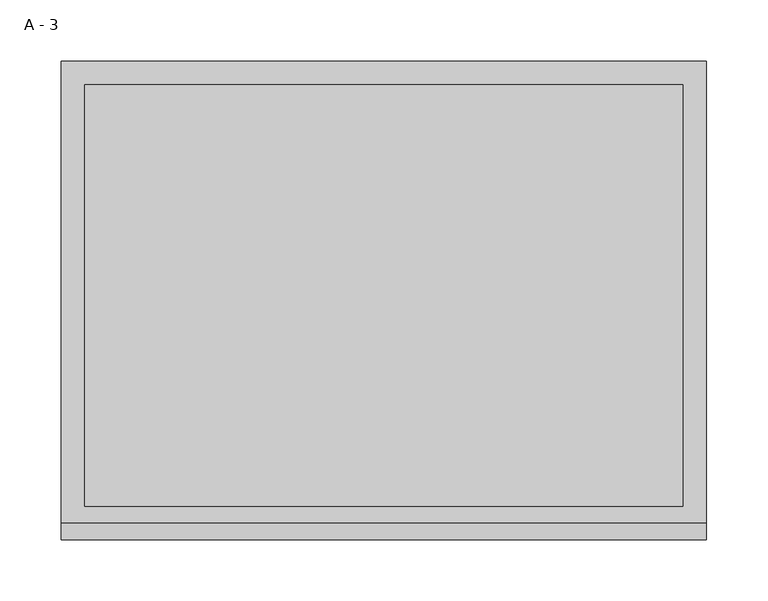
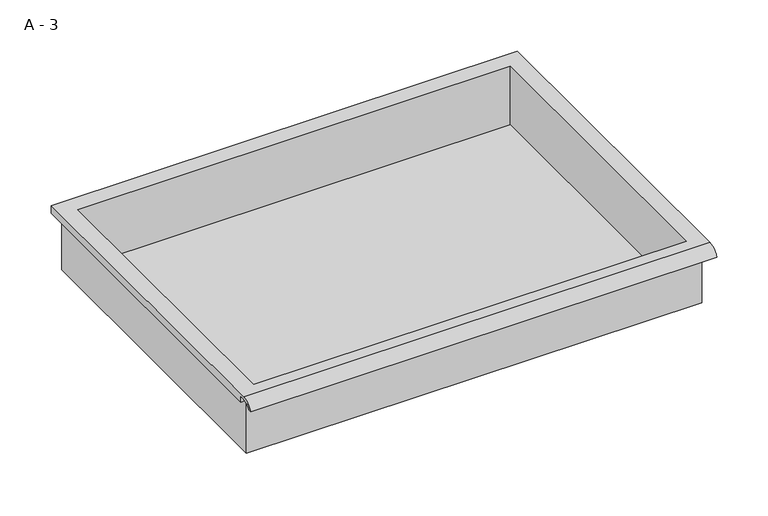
"""IFC4 building model written with IfcOpenShell, lengths in millimetres: furniture geometry, HermanMiller_CoStruc_CO207_Drawer : A - 3."""

from ifc_helpers import new_model, si_unit, frame, origin, place, context, project, spatial, polyline, circle_curve, source, transform, mapped, element, save
from ifc_brep_helpers import plane_surface, cylinder_surface, revolved_surface, advanced_brep


def a_3_05a797c7(model_context):
    return source(origin(), model_context, "Body", "AdvancedBrep", [
        advanced_brep(
        [(-257.1076517, -176.2125, 622.2111), (257.2423483, -176.2125, 622.2111), (257.2423483, -176.2125, 685.7111), (263.5923483, -176.2125, 685.7111), (263.5923483, -176.2125, 692.0182341), (-263.4576517, -176.2125, 692.0182341), (-263.4576517, -176.2125, 685.7111), (-257.1076517, -176.2125, 685.7111), (257.2423483, 185.7375, 622.2111), (-257.1076517, 185.7375, 622.2111), (-257.1076517, 185.7375, 685.7111), (257.2423483, 185.7375, 685.7111), (263.5923483, -181.6070544, 695.2361), (263.5923483, 195.2625, 695.2361), (-263.4576517, 195.2625, 695.2361), (-263.4576517, -181.6070544, 695.2361), (244.5423483, -168.275, 695.2361), (-244.4076517, -168.275, 695.2361), (-244.4076517, 176.2125, 695.2361), (244.5423483, 176.2125, 695.2361), (263.5923483, -195.2625, 685.7111), (263.5923483, -191.8280601, 685.7111), (263.5923483, -180.4714815, 692.0182341), (263.5923483, 195.2625, 685.7111), (-263.4576517, 195.2625, 685.7111), (-263.4576517, -180.4714815, 692.0182341), (-263.4576517, -191.8280601, 685.7111), (-263.4576517, -195.2625, 685.7111), (-244.4076517, -168.275, 625.2372719), (244.5423483, -168.275, 625.2372719), (244.5423483, 176.2125, 625.2372719), (-244.4076517, 176.2125, 625.2372719)],
        [
            (0, 1),
            (1, 2),
            (2, 3),
            (3, 4),
            (4, 5),
            (5, 6),
            (6, 7),
            (7, 0),
            (8, 9),
            (9, 10),
            (10, 11),
            (11, 8),
            (0, 9),
            (8, 1),
            (11, 2),
            (12, 13),
            (13, 14),
            (14, 15),
            (15, 12),
            (16, 17),
            (17, 18),
            (18, 19),
            (19, 16),
            (7, 10),
            (12, 20, circle_curve(frame((263.5923483, -181.6070544, 680.6850859), z_axis=(1.0, 0.0, 0.0), x_axis=(0.0, 1.0, 0.0)), 14.5510141)),
            (20, 21),
            (21, 22, circle_curve(frame((263.5923483, -181.6070544, 680.6850859), z_axis=(-1.0, 0.0, 0.0), x_axis=(0.0, 1.0, 0.0)), 11.3898979)),
            (22, 4),
            (3, 23),
            (23, 13),
            (14, 24),
            (24, 6),
            (5, 25),
            (25, 26, circle_curve(frame((-263.4576517, -181.6070544, 680.6850859), z_axis=(1.0, 0.0, 0.0), x_axis=(0.0, 1.0, 0.0)), 11.3898979)),
            (26, 27),
            (27, 15, circle_curve(frame((-263.4576517, -181.6070544, 680.6850859), z_axis=(-1.0, 0.0, 0.0), x_axis=(0.0, 1.0, 0.0)), 14.5510141)),
            (27, 20),
            (26, 21),
            (25, 22),
            (24, 23),
            (28, 29),
            (29, 30),
            (30, 31),
            (31, 28),
            (28, 17),
            (16, 29),
            (19, 30),
            (18, 31),
        ],
        [
            plane_surface(frame((257.2423483, -176.2125, 622.2111), z_axis=(0.0, -1.0, 0.0), x_axis=(1.0, 0.0, 0.0))),
            plane_surface(frame((257.2423483, 185.7375, 622.2111), z_axis=(0.0, 1.0, 0.0), x_axis=(-1.0, 0.0, 0.0))),
            plane_surface(frame((-257.1076517, -176.2125, 622.2111), z_axis=(0.0, 0.0, -1.0), x_axis=(0.0, 1.0, 0.0))),
            plane_surface(frame((257.2423483, -176.2125, 622.2111), z_axis=(1.0, 0.0, 0.0), x_axis=(0.0, 1.0, 0.0))),
            plane_surface(frame((257.2423483, -176.2125, 695.2361), z_axis=(0.0, 0.0, 1.0), x_axis=(0.0, 1.0, 0.0))),
            plane_surface(frame((-257.1076517, -176.2125, 695.2361), z_axis=(-1.0, 0.0, 0.0), x_axis=(0.0, 1.0, 0.0))),
            plane_surface(frame((263.5923483, 195.2625, 695.2361), z_axis=(1.0, 0.0, 0.0), x_axis=(0.0, -1.0, 0.0))),
            plane_surface(frame((-263.4576517, 195.2625, 695.2361), z_axis=(-1.0, 0.0, 0.0), x_axis=(0.0, 1.0, 0.0))),
            cylinder_surface(frame((-263.4576517, -181.6070544, 680.6850859), z_axis=(1.0, 0.0, 0.0), x_axis=(0.0, 1.0, 0.0)), 14.5510141),
            plane_surface(frame((263.5923483, -195.2625, 685.7111), z_axis=(0.0, -7.172997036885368e-12, -1.0), x_axis=(-1.0, 0.0, 0.0))),
            revolved_surface(polyline([(-263.4576517, -170.21715650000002, 680.6850859), (263.59234829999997, -170.21715650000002, 680.6850859)]), (-263.4576517, -181.6070544, 680.6850859), (-1.0, 0.0, 0.0)),
            plane_surface(frame((263.5923483, -180.4714815, 692.0182341), z_axis=(0.0, -1.779784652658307e-11, -1.0), x_axis=(-1.0, 0.0, 0.0))),
            plane_surface(frame((263.5923483, -176.2125, 685.7111), z_axis=(0.0, 0.0, -1.0), x_axis=(-1.0, 0.0, 0.0))),
            plane_surface(frame((263.5923483, 195.2625, 685.7111), z_axis=(0.0, 1.0, 0.0), x_axis=(-1.0, 0.0, 0.0))),
            plane_surface(frame((244.5423483, -168.275, 625.2372719), z_axis=(0.0, 0.0, 1.0), x_axis=(-1.0, 0.0, 0.0))),
            plane_surface(frame((-244.4076517, -168.275, 695.2361), z_axis=(0.0, 1.0, 0.0), x_axis=(0.0, 0.0, -1.0))),
            plane_surface(frame((244.5423483, -168.275, 695.2361), z_axis=(-1.0, 0.0, 0.0), x_axis=(0.0, 0.0, -1.0))),
            plane_surface(frame((244.5423483, 176.2125, 695.2361), z_axis=(0.0, -1.0, 0.0), x_axis=(0.0, 0.0, -1.0))),
            plane_surface(frame((-244.4076517, 176.2125, 695.2361), z_axis=(1.0, 0.0, 0.0), x_axis=(0.0, 0.0, -1.0))),
        ],
        [
            (0, [[1, 2, 3, 4, 5, 6, 7, 8]]),
            (1, [[9, 10, 11, 12]]),
            (2, [[-1, 13, -9, 14]]),
            (3, [[-14, -12, 15, -2]]),
            (4, [[16, 17, 18, 19], [20, 21, 22, 23]]),
            (5, [[-13, -8, 24, -10]]),
            (6, [[-16, 25, 26, 27, 28, -4, 29, 30]]),
            (7, [[31, 32, -6, 33, 34, 35, 36, -18]]),
            (8, [[-25, -19, -36, 37]]),
            (9, [[-26, -37, -35, 38]]),
            (10, [[-27, -38, -34, 39]]),
            (11, [[-28, -39, -33, -5]]),
            (12, [[-29, -3, -15, -11, -24, -7, -32, 40]]),
            (13, [[-30, -40, -31, -17]]),
            (14, [[41, 42, 43, 44]]),
            (15, [[-41, 45, -20, 46]]),
            (16, [[-42, -46, -23, 47]]),
            (17, [[-43, -47, -22, 48]]),
            (18, [[-44, -48, -21, -45]]),
        ],
    ),
    ])


if __name__ == "__main__":
    model = new_model("IFC4")
    model_context = context("Model", 3, world=origin())
    ifc_project = project(units=[si_unit("LENGTHUNIT", "METRE", prefix="MILLI")], contexts=[model_context])
    site = spatial("IfcSite", under=ifc_project)
    building = spatial("IfcBuilding", under=site)
    placement = place(None, origin())
    a_3_shape = a_3_05a797c7(model_context)
    element("IfcFurniture", 1, ObjectType="HermanMiller_CoStruc_CO207_Drawer : A - 3", at=placement, inside=building, context=model_context, shape_type="MappedRepresentation", body=[
        mapped(a_3_shape, transform((0.0, 0.0, 0.0), x_axis=(1.0, 0.0, 0.0), y_axis=(0.0, 1.0, 0.0), z_axis=(0.0, 0.0, 1.0))),
    ])
    save(model, "model.ifc")
